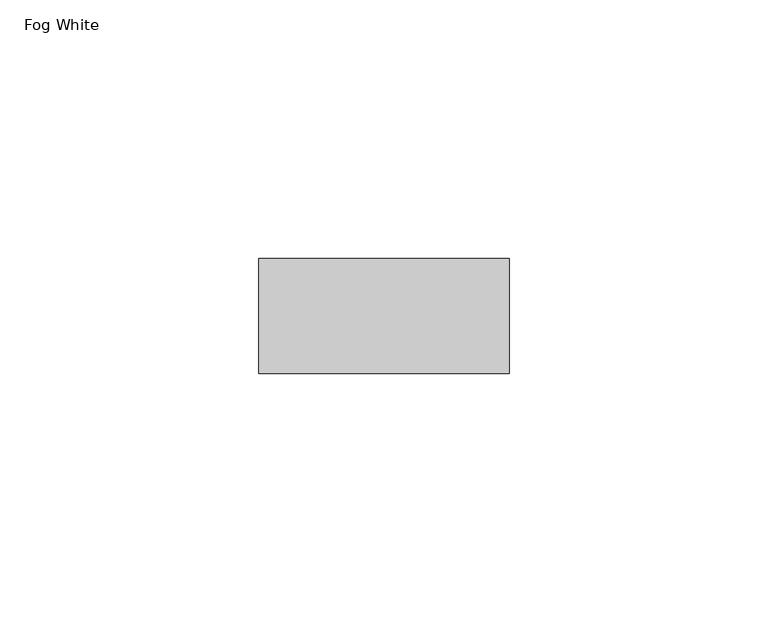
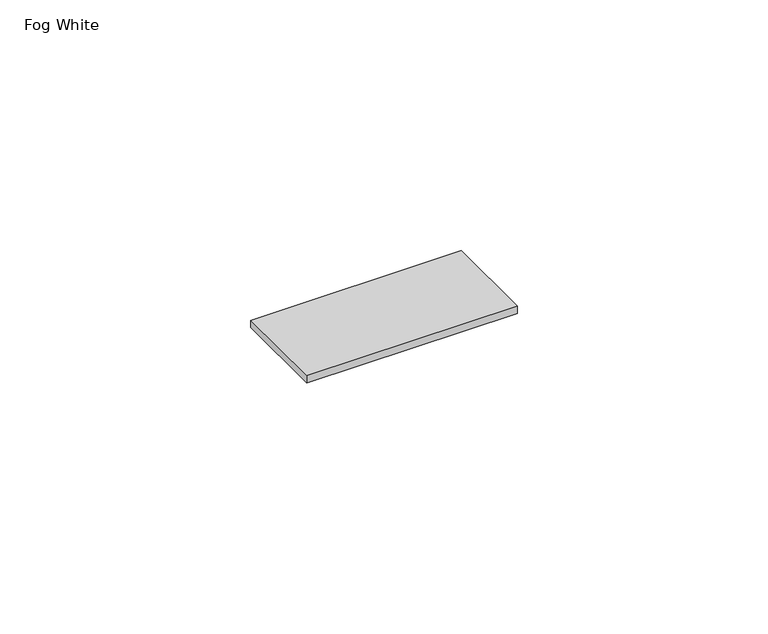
"""IFC4 building model written with IfcOpenShell, lengths in millimetres: proxy geometry, Blank_End-2400_Series-Wiremold : Fog White."""

from ifc_helpers import new_model, si_unit, origin, origin_with_axes, place, context, project, spatial, polyline, outline, extrude, source, transform, mapped, element, save


def fog_white_5ed62704(model_context):
    return source(origin(), model_context, "Body", "SweptSolid", [
        extrude(outline(polyline([(24.2062, 11.1125), (24.2062, -11.1125), (-24.2062, -11.1125), (-24.2062, 11.1125), (24.2062, 11.1125)])), origin_with_axes(), (0.0, 0.0, 1.0), 1.778),
    ])


if __name__ == "__main__":
    model = new_model("IFC4")
    model_context = context("Model", 3, world=origin())
    ifc_project = project(units=[si_unit("LENGTHUNIT", "METRE", prefix="MILLI")], contexts=[model_context])
    site = spatial("IfcSite", under=ifc_project)
    building = spatial("IfcBuilding", under=site)
    placement = place(None, origin())
    fog_white_shape = fog_white_5ed62704(model_context)
    element("IfcBuildingElementProxy", 1, Name="Blank_End-2400_Series-Wiremold : Fog White", ObjectType="Blank_End-2400_Series-Wiremold : Fog White", at=placement, inside=building, context=model_context, shape_type="MappedRepresentation", body=[
        mapped(fog_white_shape, transform((0.0, 0.0, 0.0), x_axis=(1.0, 0.0, 0.0), y_axis=(0.0, 1.0, 0.0), z_axis=(0.0, 0.0, 1.0))),
    ])
    save(model, "model.ifc")
